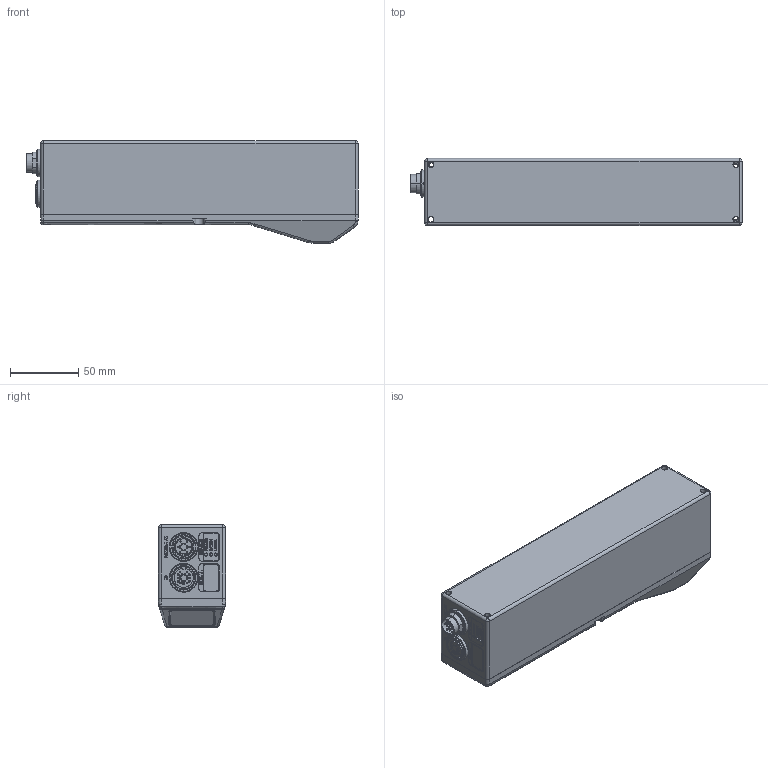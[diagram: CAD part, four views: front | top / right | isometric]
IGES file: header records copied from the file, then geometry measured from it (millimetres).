
Start section: SolidWorks IGES file using analytic representation for surfaces
Global section: file name: C:\_LMI\VAULT\SENSORS\dev\RD\Gocator\Models\1x00\_Base\Documents\Manual Drawings\Goactor 1x00 Basic Housing, 232mm.IGS; native system: SolidWorks 2012; preprocessor: SolidWorks 2012; author: Jeff; date: 130122.152656; units: millimetre
Bounding box: 242.75 x 49 x 75 mm (x, y, z)
Surface area: 64850.8 mm2 (no closed solid volume)
Topology: 0 solids, 0 shells, 393 faces, 7033 edges, 6995 vertices
Faces by surface type: revolution 227, bspline 166
